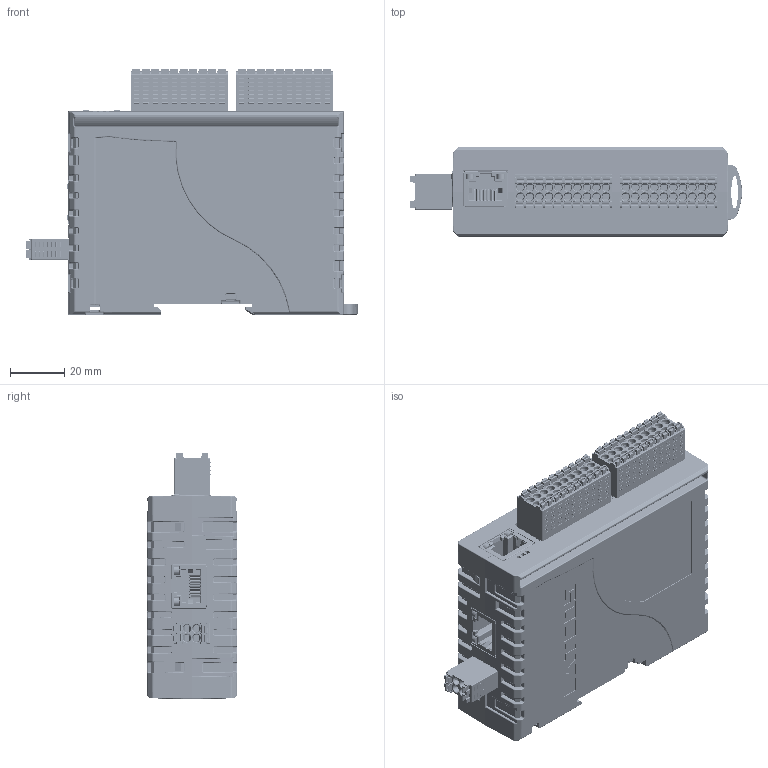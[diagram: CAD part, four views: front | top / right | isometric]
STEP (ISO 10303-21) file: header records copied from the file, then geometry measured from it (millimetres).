
FILE_DESCRIPTION((''),'2;1');
FILE_NAME('SHELL-ALL_ASM_1_ASM_1_ASM','2023-07-27T16:25:14',('Administrator'),('yulong DESIGN'),'CREO PARAMETRIC BY PTC INC, 2021023','CREO PARAMETRIC BY PTC INC, 2021023','');
FILE_SCHEMA(('AUTOMOTIVE_DESIGN { 1 0 10303 214 1 1 1 1 }'));
Products named in the file (17): SHELL-1_1_1; PCB_1_1; DINKLE_0159-31XX_1_1_1_1; DINKLE_0159-31XX_1_2_1_1; DINKLE_0159-31XX_1_3_1_1; DINKLE_0159-31XX_1_ASM_1_ASM_1_ASM; 0159-3104_ASM_1_ASM_1_ASM; MJ5688-BX11-GRLX_1_1; X-PCB_1; 0159-3120_1_1; X-PCB-ALL_ASM_1_ASM; PCB-ALL_ASM_1_ASM_1_ASM; SHELL-2_1_1; DIN_LATCH_20200719_1_1; 0159-0320_000_1; 0159-03040001_1; SHELL-ALL_ASM_1_ASM_1_ASM
Assembly tree (19 placements, depth 5):
  SHELL-ALL_ASM_1_ASM_1_ASM
    SHELL-1_1_1
    PCB-ALL_ASM_1_ASM_1_ASM
      PCB_1_1
      0159-3104_ASM_1_ASM_1_ASM
        DINKLE_0159-31XX_1_ASM_1_ASM_1_ASM
          DINKLE_0159-31XX_1_1_1_1
          DINKLE_0159-31XX_1_2_1_1
          DINKLE_0159-31XX_1_3_1_1
      MJ5688-BX11-GRLX_1_1  x2
      X-PCB-ALL_ASM_1_ASM  x2
        X-PCB_1
        0159-3120_1_1
    SHELL-2_1_1
    DIN_LATCH_20200719_1_1
    0159-0320_000_1  x2
    0159-03040001_1
Bounding box: 122.11 x 33 x 90.54 mm (x, y, z)
Volume: 252049.5 mm3; surface area: 108251.4 mm2
Topology: 16 solids, 18 shells, 12680 faces, 34514 edges, 22408 vertices
Faces by surface type: plane 6680, cylinder 4046, bspline 1013, torus 572, cone 250, sphere 111, extrusion 8
Entity records: 367047 total; most frequent: CARTESIAN_POINT 90016, ORIENTED_EDGE 43052, DIRECTION 37069, PRESENTATION_STYLE_ASSIGNMENT 23747, STYLED_ITEM 23747, EDGE_CURVE 21526, CURVE_STYLE 21306, VERTEX_POINT 13939
